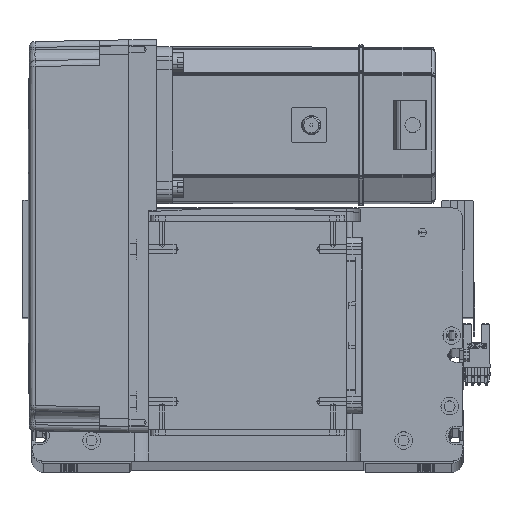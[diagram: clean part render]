
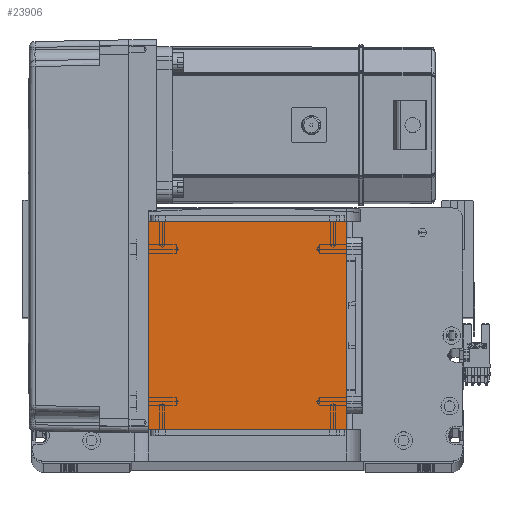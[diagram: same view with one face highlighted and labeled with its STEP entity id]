
A CAD part, top view. The second image highlights one B-rep face of the part: STEP entity #23906.
In plain terms, the highlighted planar face has unit normal (0, 0, 1).
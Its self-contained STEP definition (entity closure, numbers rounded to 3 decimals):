
#148 = DIRECTION ( 'NONE',  ( 0., -1., 0. ) ) ;
#541 = VERTEX_POINT ( 'NONE', #35931 ) ;
#4567 = ORIENTED_EDGE ( 'NONE', *, *, #6857, .T. ) ;
#6857 = EDGE_CURVE ( 'NONE', #541, #47567, #34902, .T. ) ;
#7164 = DIRECTION ( 'NONE',  ( 0., 0., 1. ) ) ;
#7413 = CARTESIAN_POINT ( 'NONE',  ( -50.5, 16., 115. ) ) ;
#7901 = VECTOR ( 'NONE', #16110, 1000. ) ;
#11647 = DIRECTION ( 'NONE',  ( 1., 0., 0. ) ) ;
#12753 = FACE_OUTER_BOUND ( 'NONE', #22707, .T. ) ;
#14395 = ORIENTED_EDGE ( 'NONE', *, *, #18829, .T. ) ;
#15902 = PLANE ( 'NONE',  #27042 ) ;
#16110 = DIRECTION ( 'NONE',  ( 1., 0., 0. ) ) ;
#16513 = VERTEX_POINT ( 'NONE', #53460 ) ;
#17085 = LINE ( 'NONE', #38755, #24711 ) ;
#17132 = CARTESIAN_POINT ( 'NONE',  ( -50.5, 122., 115. ) ) ;
#17217 = CARTESIAN_POINT ( 'NONE',  ( -50.5, 122., 115. ) ) ;
#17449 = EDGE_CURVE ( 'NONE', #16513, #541, #17085, .T. ) ;
#18829 = EDGE_CURVE ( 'NONE', #37416, #16513, #50974, .T. ) ;
#20857 = EDGE_CURVE ( 'NONE', #47567, #37416, #43843, .T. ) ;
#22707 = EDGE_LOOP ( 'NONE', ( #39789, #14395, #35022, #4567 ) ) ;
#23906 = ADVANCED_FACE ( 'NONE', ( #12753 ), #15902, .T. ) ;
#24711 = VECTOR ( 'NONE', #30181, 1000. ) ;
#26530 = DIRECTION ( 'NONE',  ( -1., 0., 0. ) ) ;
#27042 = AXIS2_PLACEMENT_3D ( 'NONE', #47162, #7164, #11647 ) ;
#30181 = DIRECTION ( 'NONE',  ( 0., 1., 0. ) ) ;
#30797 = CARTESIAN_POINT ( 'NONE',  ( -50.5, 122., 115. ) ) ;
#32951 = CARTESIAN_POINT ( 'NONE',  ( -50.5, 16., 115. ) ) ;
#34902 = LINE ( 'NONE', #17217, #37681 ) ;
#35022 = ORIENTED_EDGE ( 'NONE', *, *, #17449, .T. ) ;
#35931 = CARTESIAN_POINT ( 'NONE',  ( 50.5, 122., 115. ) ) ;
#37416 = VERTEX_POINT ( 'NONE', #32951 ) ;
#37681 = VECTOR ( 'NONE', #26530, 1000. ) ;
#38755 = CARTESIAN_POINT ( 'NONE',  ( 50.5, 122., 115. ) ) ;
#39789 = ORIENTED_EDGE ( 'NONE', *, *, #20857, .T. ) ;
#43843 = LINE ( 'NONE', #30797, #51419 ) ;
#47162 = CARTESIAN_POINT ( 'NONE',  ( 0., 0., 115. ) ) ;
#47567 = VERTEX_POINT ( 'NONE', #17132 ) ;
#50974 = LINE ( 'NONE', #7413, #7901 ) ;
#51419 = VECTOR ( 'NONE', #148, 1000. ) ;
#53460 = CARTESIAN_POINT ( 'NONE',  ( 50.5, 16., 115. ) ) ;
